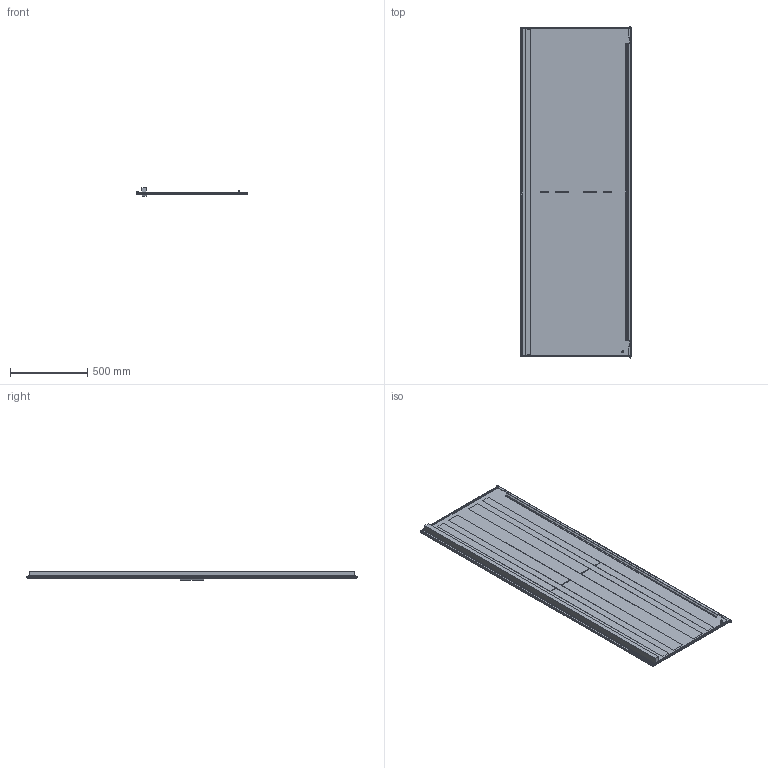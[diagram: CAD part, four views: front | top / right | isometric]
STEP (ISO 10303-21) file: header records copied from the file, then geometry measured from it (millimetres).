
FILE_DESCRIPTION (( 'STEP AP203' ), '1' );
FILE_NAME ('D 220.80 IP Äâåðü òåëåêîììóíèêàöèîííàÿ ïåðôîðèðîâàííàÿ.STEP', '2013-01-15T06:48:20', ( 'System' ), ( '' ), 'SwSTEP 2.0', 'SolidWorks 2012', '' );
FILE_SCHEMA (( 'CONFIG_CONTROL_DESIGN' ));
Length unit declared in the file: millimetre
Products named in the file (1): D 220.80 IP Äâåðü òåëåêîììóíèêàöèîííàÿ ïåðôîðèðîâàííàÿ
Bounding box: 718 x 2153.5 x 55 mm (x, y, z)
Volume: 4902585.2 mm3; surface area: 3608901 mm2
Topology: 5 solids, 5 shells, 281 faces, 694 edges, 410 vertices
Faces by surface type: cylinder 142, plane 91, sphere 24, cone 20, torus 4
Entity records: 8339 total; most frequent: DIRECTION 1552, CARTESIAN_POINT 1366, ORIENTED_EDGE 1348, EDGE_CURVE 674, AXIS2_PLACEMENT_3D 596, VERTEX_POINT 410, VECTOR 360, LINE 360
